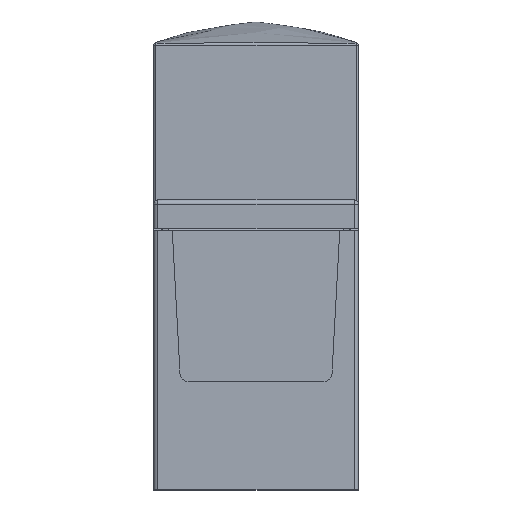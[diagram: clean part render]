
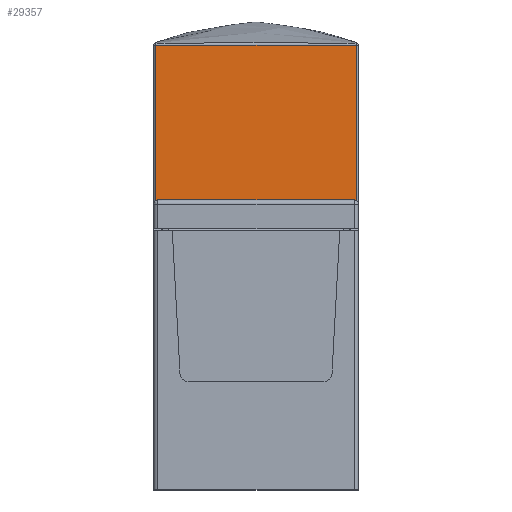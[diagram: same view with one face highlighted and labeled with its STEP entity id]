
A CAD part, left-side view. The second image highlights one B-rep face of the part: STEP entity #29357.
In plain terms, the highlighted planar face has unit normal (-1, 0, 0).
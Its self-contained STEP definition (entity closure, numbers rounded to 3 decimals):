
#65 = LINE ( 'NONE', #47714, #45951 ) ;
#1393 = CARTESIAN_POINT ( 'NONE',  ( -34.984, -27.7, 150.654 ) ) ;
#1545 = CARTESIAN_POINT ( 'NONE',  ( -34.984, 21.167, 150.654 ) ) ;
#1876 = CARTESIAN_POINT ( 'NONE',  ( -34.984, -9.999, 150.744 ) ) ;
#3393 = ORIENTED_EDGE ( 'NONE', *, *, #35757, .F. ) ;
#3983 = ORIENTED_EDGE ( 'NONE', *, *, #28787, .F. ) ;
#5704 = CARTESIAN_POINT ( 'NONE',  ( -34.984, -25.103, 150.671 ) ) ;
#5869 = CARTESIAN_POINT ( 'NONE',  ( -34.984, -13.634, 150.733 ) ) ;
#6695 = VERTEX_POINT ( 'NONE', #41273 ) ;
#7259 = DIRECTION ( 'NONE',  ( 0., 1., 0. ) ) ;
#8475 = EDGE_CURVE ( 'NONE', #30246, #16179, #23453, .T. ) ;
#8685 = CARTESIAN_POINT ( 'NONE',  ( -34.984, -27.7, 112.75 ) ) ;
#8886 = CARTESIAN_POINT ( 'NONE',  ( -34.984, 21.8, 112.75 ) ) ;
#9055 = DIRECTION ( 'NONE',  ( 0., 1., 0. ) ) ;
#9188 = DIRECTION ( 'NONE',  ( -1., 0., 0. ) ) ;
#9273 = EDGE_CURVE ( 'NONE', #6695, #35433, #17444, .T. ) ;
#9381 = ORIENTED_EDGE ( 'NONE', *, *, #26496, .F. ) ;
#9395 = CARTESIAN_POINT ( 'NONE',  ( -34.984, 1.399, 150.749 ) ) ;
#9544 = PLANE ( 'NONE',  #48195 ) ;
#11140 = ORIENTED_EDGE ( 'NONE', *, *, #9273, .F. ) ;
#11356 = AXIS2_PLACEMENT_3D ( 'NONE', #47178, #9188, #35974 ) ;
#11785 = CIRCLE ( 'NONE', #33548, 1. ) ;
#11931 = CARTESIAN_POINT ( 'NONE',  ( -34.984, 20.8, 112.75 ) ) ;
#12455 = CARTESIAN_POINT ( 'NONE',  ( -34.984, 21.3, 112.616 ) ) ;
#13567 = CARTESIAN_POINT ( 'NONE',  ( -34.984, 11.024, 150.717 ) ) ;
#15092 = CARTESIAN_POINT ( 'NONE',  ( -34.984, -27.7, 150.654 ) ) ;
#16179 = VERTEX_POINT ( 'NONE', #12455 ) ;
#16905 = VERTEX_POINT ( 'NONE', #25321 ) ;
#17082 = CARTESIAN_POINT ( 'NONE',  ( -34.984, -16.954, 150.719 ) ) ;
#17085 = DIRECTION ( 'NONE',  ( -1., 0., 0. ) ) ;
#17236 = CARTESIAN_POINT ( 'NONE',  ( -34.984, 21.3, 150.654 ) ) ;
#17239 = CARTESIAN_POINT ( 'NONE',  ( -34.984, -27.2, 111.75 ) ) ;
#17444 =( BOUNDED_CURVE ( )  B_SPLINE_CURVE ( 3, ( #17236, #1545, #36173, #24382, #32205, #28234, #13567, #36333, #24719, #9395, #28711, #44031, #1876, #5869, #17082, #24213, #32504, #5704, #43713, #20874, #1393 ),
 .UNSPECIFIED., .F., .F. ) 
 B_SPLINE_CURVE_WITH_KNOTS ( ( 4, 1, 1, 1, 1, 1, 1, 1, 1, 1, 1, 1, 1, 1, 1, 1, 1, 1, 4 ),
 ( 0., 0.008, 0.058, 0.105, 0.154, 0.208, 0.268, 0.333, 0.404, 0.481, 0.561, 0.64, 0.715, 0.783, 0.844, 0.898, 0.948, 0.994, 1. ),
 .UNSPECIFIED. ) 
 CURVE ( )  GEOMETRIC_REPRESENTATION_ITEM ( )  RATIONAL_B_SPLINE_CURVE ( ( 1.17, 1.17, 1.17, 1.17, 1.17, 1.17, 1.17, 1.17, 1.17, 1.17, 1.17, 1.17, 1.17, 1.17, 1.17, 1.17, 1.17, 1.17, 1.17, 1.17, 1.17 ) ) 
 REPRESENTATION_ITEM ( '' )  );
#19246 = ORIENTED_EDGE ( 'NONE', *, *, #8475, .F. ) ;
#20874 = CARTESIAN_POINT ( 'NONE',  ( -34.984, -27.608, 150.654 ) ) ;
#21568 = VERTEX_POINT ( 'NONE', #36410 ) ;
#22425 = CARTESIAN_POINT ( 'NONE',  ( -34.984, 21.8, 112.75 ) ) ;
#23039 = EDGE_CURVE ( 'NONE', #21568, #16905, #11785, .T. ) ;
#23453 = CIRCLE ( 'NONE', #11356, 1. ) ;
#24213 = CARTESIAN_POINT ( 'NONE',  ( -34.984, -19.943, 150.704 ) ) ;
#24382 = CARTESIAN_POINT ( 'NONE',  ( -34.984, 18.514, 150.673 ) ) ;
#24719 = CARTESIAN_POINT ( 'NONE',  ( -34.984, 4.875, 150.74 ) ) ;
#25321 = CARTESIAN_POINT ( 'NONE',  ( -34.984, -27.2, 112.75 ) ) ;
#26199 = VECTOR ( 'NONE', #7259, 1000. ) ;
#26496 = EDGE_CURVE ( 'NONE', #35433, #21568, #46002, .T. ) ;
#28234 = CARTESIAN_POINT ( 'NONE',  ( -34.984, 13.688, 150.703 ) ) ;
#28711 = CARTESIAN_POINT ( 'NONE',  ( -34.984, -2.312, 150.753 ) ) ;
#28787 = EDGE_CURVE ( 'NONE', #16905, #30246, #33909, .T. ) ;
#29357 = ADVANCED_FACE ( 'NONE', ( #41072 ), #9544, .F. ) ;
#30246 = VERTEX_POINT ( 'NONE', #11931 ) ;
#32205 = CARTESIAN_POINT ( 'NONE',  ( -34.984, 16.138, 150.688 ) ) ;
#32504 = CARTESIAN_POINT ( 'NONE',  ( -34.984, -22.642, 150.688 ) ) ;
#33548 = AXIS2_PLACEMENT_3D ( 'NONE', #17239, #17085, #43865 ) ;
#33909 = LINE ( 'NONE', #22425, #26199 ) ;
#34989 = DIRECTION ( 'NONE',  ( 0., 0., -1. ) ) ;
#35433 = VERTEX_POINT ( 'NONE', #15092 ) ;
#35757 = EDGE_CURVE ( 'NONE', #16179, #6695, #65, .T. ) ;
#35791 = EDGE_LOOP ( 'NONE', ( #3393, #19246, #3983, #46573, #9381, #11140 ) ) ;
#35974 = DIRECTION ( 'NONE',  ( 0., 1., 0. ) ) ;
#36151 = DIRECTION ( 'NONE',  ( 1., 0., 0. ) ) ;
#36173 = CARTESIAN_POINT ( 'NONE',  ( -34.984, 20.224, 150.661 ) ) ;
#36333 = CARTESIAN_POINT ( 'NONE',  ( -34.984, 8.087, 150.73 ) ) ;
#36410 = CARTESIAN_POINT ( 'NONE',  ( -34.984, -27.7, 112.616 ) ) ;
#41072 = FACE_OUTER_BOUND ( 'NONE', #35791, .T. ) ;
#41273 = CARTESIAN_POINT ( 'NONE',  ( -34.984, 21.3, 150.654 ) ) ;
#43552 = DIRECTION ( 'NONE',  ( 0., 0., 1. ) ) ;
#43713 = CARTESIAN_POINT ( 'NONE',  ( -34.984, -26.763, 150.66 ) ) ;
#43865 = DIRECTION ( 'NONE',  ( 0., -1., 0. ) ) ;
#44031 = CARTESIAN_POINT ( 'NONE',  ( -34.984, -6.165, 150.751 ) ) ;
#44277 = VECTOR ( 'NONE', #34989, 1000. ) ;
#45951 = VECTOR ( 'NONE', #43552, 1000. ) ;
#46002 = LINE ( 'NONE', #8685, #44277 ) ;
#46573 = ORIENTED_EDGE ( 'NONE', *, *, #23039, .F. ) ;
#47178 = CARTESIAN_POINT ( 'NONE',  ( -34.984, 20.8, 111.75 ) ) ;
#47714 = CARTESIAN_POINT ( 'NONE',  ( -34.984, 21.3, 112.75 ) ) ;
#48195 = AXIS2_PLACEMENT_3D ( 'NONE', #8886, #36151, #9055 ) ;
